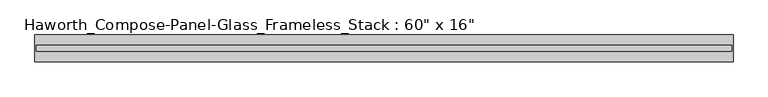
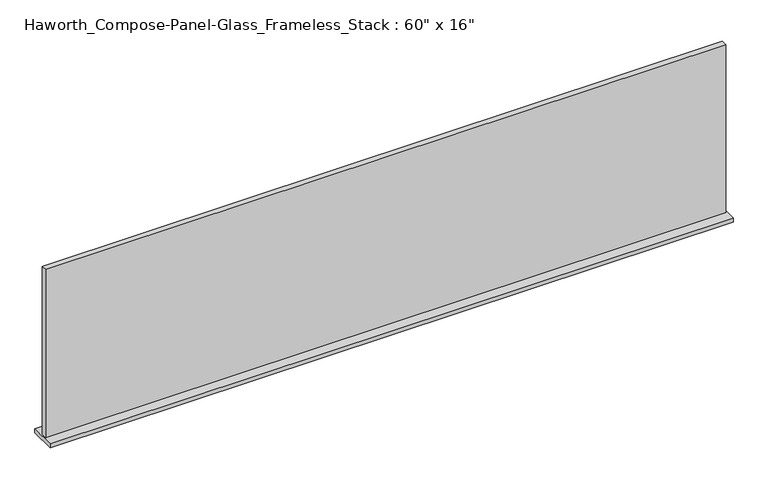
"""IFC4 building model written with IfcOpenShell, lengths in millimetres: furniture geometry."""

from ifc_helpers import new_model, si_unit, frame, origin, place, context, project, spatial, polyline, outline, extrude, source, transform, mapped, element, save


def furniture_50d83fae(model_context):
    return source(origin(), model_context, "Body", "SweptSolid", [
        extrude(outline(polyline([(761.2652902, -27.3093594), (-756.3847098, -27.3093594), (-756.3847098, -14.6093594), (761.2652902, -14.6093594), (761.2652902, -27.3093594)])), frame((0.0, 0.0, 746.125), z_axis=(0.0, 0.0, 1.0), x_axis=(1.0, 0.0, 0.0)), (0.0, 0.0, 1.0), 396.875),
        extrude(outline(polyline([(-759.5597098, -50.3281094), (-759.5597098, 8.4093906), (764.4402902, 8.4093906), (764.4402902, -50.3281094), (-759.5597098, -50.3281094)])), frame((0.0, 0.0, 736.6), z_axis=(0.0, 0.0, 1.0), x_axis=(1.0, 0.0, 0.0)), (0.0, 0.0, 1.0), 9.525),
    ])


if __name__ == "__main__":
    model = new_model("IFC4")
    model_context = context("Model", 3, world=origin())
    ifc_project = project(units=[si_unit("LENGTHUNIT", "METRE", prefix="MILLI")], contexts=[model_context])
    site = spatial("IfcSite", under=ifc_project)
    building = spatial("IfcBuilding", under=site)
    placement = place(None, origin())
    furniture_shape = furniture_50d83fae(model_context)
    element("IfcFurniture", 1, ObjectType="Haworth_Compose-Panel-Glass_Frameless_Stack : 60\" x 16\"", at=placement, inside=building, context=model_context, shape_type="MappedRepresentation", body=[
        mapped(furniture_shape, transform((0.0, 0.0, 0.0), x_axis=(1.0, 0.0, 0.0), y_axis=(0.0, 1.0, 0.0), z_axis=(0.0, 0.0, 1.0))),
    ])
    save(model, "model.ifc")
